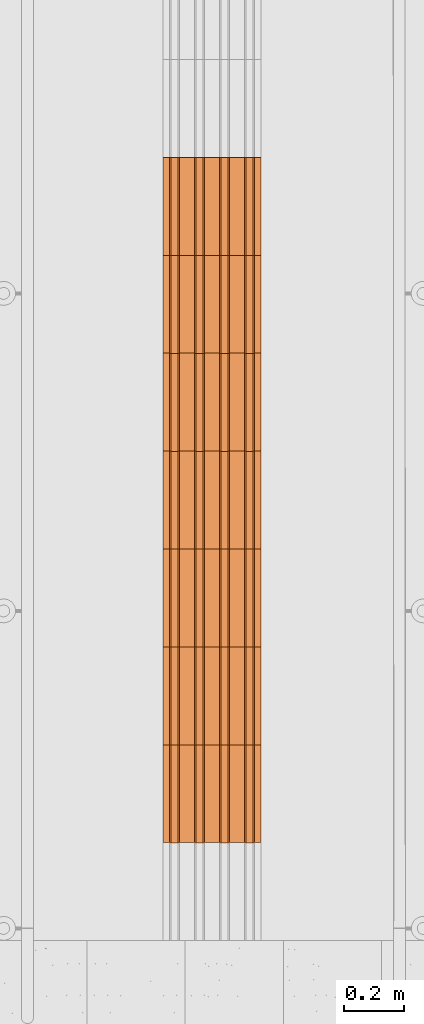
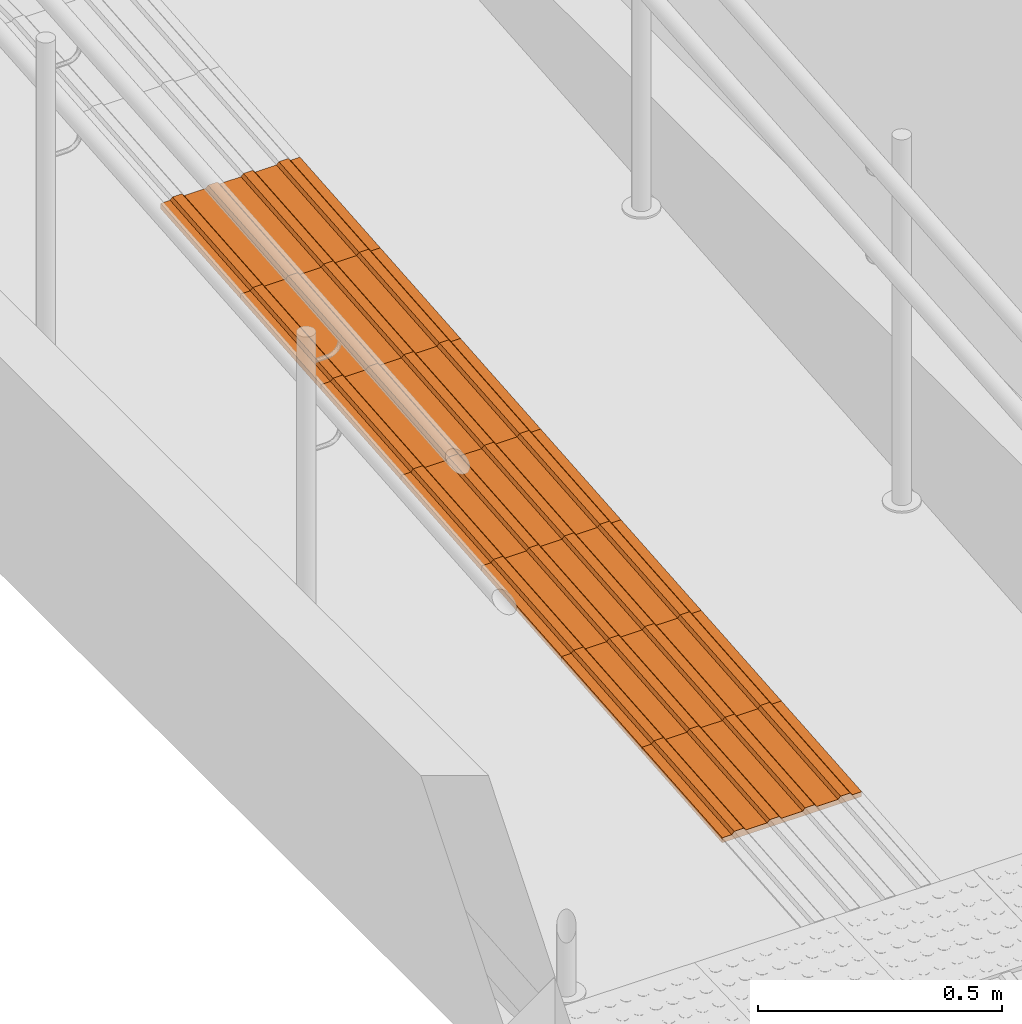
# One storey, part 175 of 237: 7 proxies.
"""IFC2X3 building model written with IfcOpenShell, lengths in millimetres."""

import ifcopenshell
import ifcopenshell.guid

model = None  # the IFC model being written
_history = None  # IfcOwnerHistory: only IFC2X3 demands one
_inside = {}  # id of a spatial element -> (the spatial element, [elements in it])
_under = {}  # id of a project, library or spatial element -> (it, [spatial elements below it])
_declared = {}  # id of a project -> (the project, [libraries it declares])
_typed = {}  # id of a type object -> (the type object, [elements of that type])
_made_of = {}  # id of a material, layer set ... -> (it, [elements and type objects made of it])


def new_model(schema):
    """Start an empty IFC model of exactly this schema.

    Asked for "IFC4X3", IfcOpenShell would pick the latest addendum, in which some entities
    have other attributes; the version numbers below select the first issue.
    IFC2X3 requires an IfcOwnerHistory on every rooted entity: one is made here for all.
    """
    global model, _history
    if schema == "IFC4X3":
        model = ifcopenshell.file(schema_version=(4, 3, 0, 0))
    else:
        model = ifcopenshell.file(schema=schema)
    _inside.clear()
    _under.clear()
    _declared.clear()
    _typed.clear()
    _made_of.clear()
    _history = None
    if model.schema == "IFC2X3":
        org = make("IfcOrganization", Name="unknown")
        user = make(
            "IfcPersonAndOrganization",
            ThePerson=make("IfcPerson", FamilyName="unknown"),
            TheOrganization=org,
        )
        app = make(
            "IfcApplication",
            ApplicationDeveloper=org,
            Version="unknown",
            ApplicationFullName="unknown",
            ApplicationIdentifier="unknown",
        )
        _history = make(
            "IfcOwnerHistory",
            OwningUser=user,
            OwningApplication=app,
            ChangeAction="ADDED",
            CreationDate=0,
        )
    return model


def make(cls, **values):
    """One entity of the class cls with the attributes given. An attribute that is None is left unset."""
    return model.create_entity(
        cls, **{name: value for name, value in values.items() if value is not None}
    )


def entity(cls, *values):
    """Any entity or typed value of the class cls, its attributes in the order of the schema. None: left unset."""
    e = model.create_entity(cls)
    for i, value in enumerate(values):
        if value is not None:
            e[i] = value
    return e


def rooted(cls, **values):
    """An entity with a GlobalId (a new one), such as an element, a storey or a relation."""
    return make(cls, GlobalId=ifcopenshell.guid.new(), OwnerHistory=_history, **values)


def si_unit(unit_type, name, prefix=None):
    """IfcSIUnit, for example si_unit("LENGTHUNIT", "METRE", prefix="MILLI")."""
    return make("IfcSIUnit", UnitType=unit_type, Prefix=prefix, Name=name)


def converted_unit(unit_type, name, factor, base, dimensions=None, offset=None):
    """IfcConversionBasedUnit, such as the inch: factor (a typed value) times the base unit."""
    return make(
        "IfcConversionBasedUnit"
        if offset is None
        else "IfcConversionBasedUnitWithOffset",
        ConversionOffset=offset,
        Dimensions=None
        if dimensions is None
        else entity("IfcDimensionalExponents", *dimensions),
        UnitType=unit_type,
        Name=name,
        ConversionFactor=make(
            "IfcMeasureWithUnit", ValueComponent=factor, UnitComponent=base
        ),
    )


def derived_unit(unit_type, elements):
    """IfcDerivedUnit: a product of units, each with its exponent."""
    return make(
        "IfcDerivedUnit",
        Elements=[
            make("IfcDerivedUnitElement", Unit=unit, Exponent=power)
            for unit, power in elements
        ],
        UnitType=unit_type,
    )


def money_unit(currency):
    """IfcMonetaryUnit."""
    return make("IfcMonetaryUnit", Currency=currency)


def assignment(units):
    """IfcUnitAssignment: the units of a project."""
    return None if units is None else make("IfcUnitAssignment", Units=units)


def point(xyz):
    """IfcCartesianPoint."""
    return None if xyz is None else make("IfcCartesianPoint", Coordinates=xyz)


def direction(xyz):
    """IfcDirection."""
    return None if xyz is None else make("IfcDirection", DirectionRatios=xyz)


def frame(location, z_axis=None, x_axis=None):
    """IfcAxis2Placement3D, a coordinate frame: its origin and axes. An axis left out is left unset."""
    return make(
        "IfcAxis2Placement3D",
        Location=point(location),
        Axis=direction(z_axis),
        RefDirection=direction(x_axis),
    )


def origin_with_axes():
    """The frame at (0, 0, 0) with the z axis (0, 0, 1) and the x axis (1, 0, 0) written out."""
    return frame((0.0, 0.0, 0.0), z_axis=(0.0, 0.0, 1.0), x_axis=(1.0, 0.0, 0.0))


def place(relative_to, where):
    """IfcLocalPlacement: puts the frame where relative to a parent placement (None: the world)."""
    return make(
        "IfcLocalPlacement", PlacementRelTo=relative_to, RelativePlacement=where
    )


def context(
    kind, dimensions, precision=None, world=None, true_north=None, identifier=None
):
    """IfcGeometricRepresentationContext, for example the 3D "Model" context."""
    return make(
        "IfcGeometricRepresentationContext",
        ContextIdentifier=identifier,
        ContextType=kind,
        CoordinateSpaceDimension=dimensions,
        Precision=precision,
        WorldCoordinateSystem=world,
        TrueNorth=true_north,
    )


def subcontext(parent, identifier, kind, view, scale=None):
    """IfcGeometricRepresentationSubContext, for example "Body" below "Model"."""
    return make(
        "IfcGeometricRepresentationSubContext",
        ContextIdentifier=identifier,
        ContextType=kind,
        ParentContext=parent,
        TargetScale=scale,
        TargetView=view,
    )


def project(units=None, contexts=None):
    """IfcProject with its units and contexts."""
    return rooted(
        "IfcProject",
        Name="project",
        RepresentationContexts=contexts,
        UnitsInContext=assignment(units),
    )


def spatial(cls, under=None, at=None, **own):
    """A site, building, storey or space (cls), placed at a placement, below another one or the project."""
    s = rooted(cls, ObjectPlacement=at, **own)
    if under is not None:
        _under.setdefault(under.id(), (under, []))[1].append(s)
    return s


def faces_of(points, faces, orient=None, outer=None):
    """IfcFace entities. A face is a list of loops; a loop is a list of indices into points, from 0.

    orient and outer hold one flag for each loop. By default every Orientation is true, the
    first loop of a face is its IfcFaceOuterBound and the others are IfcFaceBound.
    """
    made = []
    for i, loops in enumerate(faces):
        bounds = []
        for j, loop in enumerate(loops):
            is_outer = j == 0 if outer is None else outer[i][j]
            bounds.append(
                make(
                    "IfcFaceOuterBound" if is_outer else "IfcFaceBound",
                    Bound=make("IfcPolyLoop", Polygon=[points[k] for k in loop]),
                    Orientation=True if orient is None else orient[i][j],
                )
            )
        made.append(make("IfcFace", Bounds=bounds))
    return made


def open_shell(faces, orient=None, outer=None):
    """The faces of one IfcOpenShell. surface_model builds it on its shared points."""
    return ("IfcOpenShell", faces, orient, outer)


def surface_model(cls, points, shells):
    """IfcFaceBasedSurfaceModel or IfcShellBasedSurfaceModel (cls): surfaces that need not close."""
    shared = [point(p) for p in points]
    made = [make(c, CfsFaces=faces_of(shared, fs, o, b)) for c, fs, o, b in shells]
    if cls == "IfcFaceBasedSurfaceModel":
        return make(cls, FbsmFaces=made)
    return make(cls, SbsmBoundary=made)


def shape(context_of_items, identifier, shape_type, items):
    """IfcShapeRepresentation: the items that make up one representation, for example the "Body"."""
    return make(
        "IfcShapeRepresentation",
        ContextOfItems=context_of_items,
        RepresentationIdentifier=identifier,
        RepresentationType=shape_type,
        Items=items,
    )


def source(mapping_origin, context_of_items, identifier, shape_type, items):
    """IfcRepresentationMap: a shape defined once, which mapped items show again and again."""
    return make(
        "IfcRepresentationMap",
        MappingOrigin=mapping_origin,
        MappedRepresentation=shape(context_of_items, identifier, shape_type, items),
    )


def transform(
    local_origin,
    x_axis=None,
    y_axis=None,
    z_axis=None,
    scale=None,
    scale2=None,
    scale3=None,
    uniform=True,
):
    """IfcCartesianTransformationOperator3D, or its non-uniform kind. x_axis, y_axis, z_axis: its Axis1, 2, 3."""
    if uniform:
        return make(
            "IfcCartesianTransformationOperator3D",
            Axis1=direction(x_axis),
            Axis2=direction(y_axis),
            LocalOrigin=point(local_origin),
            Scale=scale,
            Axis3=direction(z_axis),
        )
    return make(
        "IfcCartesianTransformationOperator3DnonUniform",
        Axis1=direction(x_axis),
        Axis2=direction(y_axis),
        LocalOrigin=point(local_origin),
        Scale=scale,
        Axis3=direction(z_axis),
        Scale2=scale2,
        Scale3=scale3,
    )


def mapped(mapping_source, mapping_target):
    """IfcMappedItem: shows the shape of a source again, moved by a transform."""
    return make(
        "IfcMappedItem", MappingSource=mapping_source, MappingTarget=mapping_target
    )


def made_of(thing, what):
    """Note that an element or type object is made of a material, layer set ...; save() writes the relation."""
    if what is not None:
        _made_of.setdefault(what.id(), (what, []))[1].append(thing)
    return thing


def type_object(cls, material=None, **own):
    """A type object (cls), such as IfcWallType, which elements share."""
    return made_of(rooted(cls, **own), material)


def element(
    cls,
    number,
    at=None,
    inside=None,
    cuts=None,
    type_object=None,
    material=None,
    context=None,
    identifier="Body",
    shape_type=None,
    held_by="IfcProductDefinitionShape",
    body=None,
    shapes=None,
    **own,
):
    """One element of the class cls, such as IfcWall. Its Tag is "e" and its number.

    at: its placement. inside: the storey or other place that contains it. cuts: it is an
    opening in that element (IfcRelVoidsElement). A single representation is given by context,
    identifier, shape_type and body (its items); several are given by shapes. held_by: the class
    of the entity that holds the representations. save() writes the other relations.
    """
    e = rooted(cls, Tag="e%d" % number, ObjectPlacement=at, **own)
    if body is not None:
        shapes = [shape(context, identifier, shape_type, body)]
    if shapes is not None:
        e.Representation = make(held_by, Representations=shapes)
    if inside is not None:
        _inside.setdefault(inside.id(), (inside, []))[1].append(e)
    if cuts is not None:
        rooted(
            "IfcRelVoidsElement", RelatingBuildingElement=cuts, RelatedOpeningElement=e
        )
    if type_object is not None:
        _typed.setdefault(type_object.id(), (type_object, []))[1].append(e)
    return made_of(e, material)


def aggregate(whole, parts):
    """IfcRelAggregates: a whole, such as a stair, and the parts it consists of."""
    return rooted("IfcRelAggregates", RelatingObject=whole, RelatedObjects=parts)


def save(model, path):
    """Write the relations noted so far, then the file.

    IfcRelAggregates (storeys below a building ...), IfcRelContainedInSpatialStructure (elements
    in a storey), IfcRelDefinesByType, IfcRelAssociatesMaterial and IfcRelDeclares: one each for
    every whole, place, type object, material and project.
    """
    for whole, parts in _under.values():
        aggregate(whole, parts)
    for where, things in _inside.values():
        rooted(
            "IfcRelContainedInSpatialStructure",
            RelatedElements=things,
            RelatingStructure=where,
        )
    for kind, things in _typed.values():
        rooted("IfcRelDefinesByType", RelatedObjects=things, RelatingType=kind)
    for what, things in _made_of.values():
        rooted("IfcRelAssociatesMaterial", RelatedObjects=things, RelatingMaterial=what)
    for by, libraries in _declared.values():
        rooted("IfcRelDeclares", RelatingContext=by, RelatedDefinitions=libraries)
    model.write(path)


model = new_model("IFC2X3")

# Units and contexts
model_context = context("Model", 3, precision=0.01, world=origin_with_axes(), true_north=direction((0.0, 1.0)))
body_context = subcontext(model_context, "Body", "Model", "MODEL_VIEW")
ifc_project = project(units=[si_unit("LENGTHUNIT", "METRE", prefix="MILLI"), si_unit("AREAUNIT", "SQUARE_METRE"), si_unit("VOLUMEUNIT", "CUBIC_METRE"), converted_unit("PLANEANGLEUNIT", "DEGREE", entity("IfcPlaneAngleMeasure", 0.0174532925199), si_unit("PLANEANGLEUNIT", "RADIAN"), dimensions=[0, 0, 0, 0, 0, 0, 0]), money_unit("USD"), converted_unit("TIMEUNIT", "Year", entity("IfcTimeMeasure", 31556926.0), si_unit("TIMEUNIT", "SECOND"), dimensions=[0, 0, 1, 0, 0, 0, 0]), si_unit("MASSUNIT", "GRAM", prefix="KILO"), si_unit("THERMODYNAMICTEMPERATUREUNIT", "DEGREE_CELSIUS"), si_unit("LUMINOUSINTENSITYUNIT", "LUMEN"), si_unit("ENERGYUNIT", "JOULE", prefix="MEGA"), derived_unit("THERMALCONDUCTANCEUNIT", [(si_unit("POWERUNIT", "WATT"), 1), (si_unit("LENGTHUNIT", "METRE"), -1), (si_unit("THERMODYNAMICTEMPERATUREUNIT", "KELVIN"), -1)]), derived_unit("SPECIFICHEATCAPACITYUNIT", [(si_unit("ENERGYUNIT", "JOULE"), 1), (si_unit("MASSUNIT", "GRAM", prefix="KILO"), -1), (si_unit("THERMODYNAMICTEMPERATUREUNIT", "KELVIN"), -1)]), derived_unit("MASSDENSITYUNIT", [(si_unit("MASSUNIT", "GRAM", prefix="KILO"), 1), (si_unit("VOLUMEUNIT", "CUBIC_METRE"), -1)])], contexts=[model_context])

# Site, building, storey
site_placement = place(None, origin_with_axes())
site = spatial("IfcSite", under=ifc_project, at=site_placement, Name="Local", CompositionType="ELEMENT")
building_placement = place(site_placement, origin_with_axes())
building = spatial("IfcBuilding", under=site, at=building_placement, Name="Construção", CompositionType="ELEMENT")
storey_placement = place(building_placement, origin_with_axes())
storey = spatial("IfcBuildingStorey", under=building, at=storey_placement, Name="Pavimento Térreo", CompositionType="ELEMENT", Elevation=0.0)

# Proxies
building_element_proxy_type = type_object("IfcBuildingElementProxyType", Name="Piso Direcional 27", PredefinedType="NOTDEFINED")
shared_shape = source(origin_with_axes(), body_context, "Body", "SurfaceModel", [
    surface_model("IfcShellBasedSurfaceModel", [(-0.333594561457, -47.258225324, 4.01468455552), (328.533021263, -47.258225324, 31.3413930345), (327.980966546, -41.665004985, 37.9851630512), (-0.885649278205, -41.665004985, 10.6584545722)], [open_shell([[[0, 1, 2, 3]]])]),
    surface_model("IfcShellBasedSurfaceModel", [(329.637130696, -153.529411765, 18.0538530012), (329.637130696, 176.470588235, 18.0538530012), (328.533021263, 176.470588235, 31.3413930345), (328.533021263, 154.097706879, 31.3413930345), (327.980966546, 148.50448654, 37.9851630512), (327.980966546, 126.131605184, 37.9851630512), (328.533021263, 120.538384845, 31.3413930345), (328.533021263, 70.1994017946, 31.3413930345), (327.980966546, 64.6061814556, 37.9851630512), (327.980966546, 42.2333000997, 37.9851630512), (328.533021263, 36.6400797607, 31.3413930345), (328.533021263, -13.6989032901, 31.3413930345), (327.980966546, -19.2921236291, 37.9851630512), (327.980966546, -41.665004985, 37.9851630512), (328.533021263, -47.258225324, 31.3413930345), (328.533021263, -97.5972083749, 31.3413930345), (327.980966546, -103.190428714, 37.9851630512), (327.980966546, -125.56331007, 37.9851630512), (328.533021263, -131.156530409, 31.3413930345), (328.533021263, -153.529411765, 31.3413930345)], [open_shell([[[0, 1, 2, 3, 4, 5, 6, 7, 8, 9, 10, 11, 12, 13, 14, 15, 16, 17, 18, 19]]])]),
    surface_model("IfcShellBasedSurfaceModel", [(-0.885649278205, -19.2921236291, 10.6584545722), (327.980966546, -19.2921236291, 37.9851630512), (328.533021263, -13.6989032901, 31.3413930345), (-0.333594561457, -13.6989032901, 4.01468455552)], [open_shell([[[0, 1, 2, 3]]])]),
    surface_model("IfcShellBasedSurfaceModel", [(-0.885649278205, -103.190428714, 10.6584545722), (327.980966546, -103.190428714, 37.9851630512), (328.533021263, -97.5972083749, 31.3413930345), (-0.333594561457, -97.5972083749, 4.01468455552)], [open_shell([[[0, 1, 2, 3]]])]),
    surface_model("IfcShellBasedSurfaceModel", [(-0.885649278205, 64.6061814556, 10.6584545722), (327.980966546, 64.6061814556, 37.9851630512), (328.533021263, 70.1994017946, 31.3413930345), (-0.333594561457, 70.1994017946, 4.01468455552)], [open_shell([[[0, 1, 2, 3]]])]),
    surface_model("IfcShellBasedSurfaceModel", [(-0.333594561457, 36.6400797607, 4.01468455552), (328.533021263, 36.6400797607, 31.3413930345), (327.980966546, 42.2333000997, 37.9851630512), (-0.885649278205, 42.2333000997, 10.6584545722)], [open_shell([[[0, 1, 2, 3]]])]),
    surface_model("IfcShellBasedSurfaceModel", [(-0.333594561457, -131.156530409, 4.01468455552), (328.533021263, -131.156530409, 31.3413930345), (327.980966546, -125.56331007, 37.9851630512), (-0.885649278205, -125.56331007, 10.6584545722)], [open_shell([[[0, 1, 2, 3]]])]),
    surface_model("IfcShellBasedSurfaceModel", [(-0.333594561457, 176.470588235, 4.01468455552), (-0.333594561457, 154.097706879, 4.01468455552), (328.533021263, 154.097706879, 31.3413930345), (328.533021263, 176.470588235, 31.3413930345)], [open_shell([[[0, 1, 2, 3]]])]),
    surface_model("IfcShellBasedSurfaceModel", [(-0.333594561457, 120.538384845, 4.01468455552), (328.533021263, 120.538384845, 31.3413930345), (327.980966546, 126.131605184, 37.9851630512), (-0.885649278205, 126.131605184, 10.6584545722)], [open_shell([[[0, 1, 2, 3]]])]),
    surface_model("IfcShellBasedSurfaceModel", [(-0.885649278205, 148.50448654, 10.6584545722), (327.980966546, 148.50448654, 37.9851630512), (328.533021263, 154.097706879, 31.3413930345), (-0.333594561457, 154.097706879, 4.01468455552)], [open_shell([[[0, 1, 2, 3]]])]),
    surface_model("IfcShellBasedSurfaceModel", [(-0.333594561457, 36.6400797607, 4.01468455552), (-0.333594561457, -13.6989032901, 4.01468455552), (328.533021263, -13.6989032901, 31.3413930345), (328.533021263, 36.6400797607, 31.3413930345)], [open_shell([[[0, 1, 2, 3]]])]),
    surface_model("IfcShellBasedSurfaceModel", [(-0.333594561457, 120.538384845, 4.01468455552), (-0.333594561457, 70.1994017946, 4.01468455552), (328.533021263, 70.1994017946, 31.3413930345), (328.533021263, 120.538384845, 31.3413930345)], [open_shell([[[0, 1, 2, 3]]])]),
    surface_model("IfcShellBasedSurfaceModel", [(-0.885649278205, 148.50448654, 10.6584545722), (-0.885649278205, 126.131605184, 10.6584545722), (327.980966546, 126.131605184, 37.9851630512), (327.980966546, 148.50448654, 37.9851630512)], [open_shell([[[0, 1, 2, 3]]])]),
    surface_model("IfcShellBasedSurfaceModel", [(-0.333594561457, 120.538384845, 4.01468455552), (-0.885649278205, 126.131605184, 10.6584545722), (-0.885649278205, 148.50448654, 10.6584545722), (-0.333594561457, 154.097706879, 4.01468455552), (-0.333594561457, 176.470588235, 4.01468455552), (0.770514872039, 176.470588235, -9.27285547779), (0.770514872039, -153.529411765, -9.27285547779), (-0.333594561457, -153.529411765, 4.01468455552), (-0.333594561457, -131.156530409, 4.01468455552), (-0.885649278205, -125.56331007, 10.6584545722), (-0.885649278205, -103.190428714, 10.6584545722), (-0.333594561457, -97.5972083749, 4.01468455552), (-0.333594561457, -47.258225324, 4.01468455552), (-0.885649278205, -41.665004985, 10.6584545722), (-0.885649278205, -19.2921236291, 10.6584545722), (-0.333594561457, -13.6989032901, 4.01468455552), (-0.333594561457, 36.6400797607, 4.01468455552), (-0.885649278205, 42.2333000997, 10.6584545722), (-0.885649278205, 64.6061814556, 10.6584545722), (-0.333594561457, 70.1994017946, 4.01468455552)], [open_shell([[[0, 1, 2, 3, 4, 5, 6, 7, 8, 9, 10, 11, 12, 13, 14, 15, 16, 17, 18, 19]]])]),
    surface_model("IfcShellBasedSurfaceModel", [(327.980966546, -41.665004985, 37.9851630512), (327.980966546, -19.2921236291, 37.9851630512), (-0.885649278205, -19.2921236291, 10.6584545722), (-0.885649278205, -41.665004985, 10.6584545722)], [open_shell([[[0, 1, 2, 3]]])]),
    surface_model("IfcShellBasedSurfaceModel", [(-0.333594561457, -47.258225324, 4.01468455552), (-0.333594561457, -97.5972083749, 4.01468455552), (328.533021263, -97.5972083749, 31.3413930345), (328.533021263, -47.258225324, 31.3413930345)], [open_shell([[[0, 1, 2, 3]]])]),
    surface_model("IfcShellBasedSurfaceModel", [(327.980966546, 42.2333000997, 37.9851630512), (327.980966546, 64.6061814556, 37.9851630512), (-0.885649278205, 64.6061814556, 10.6584545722), (-0.885649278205, 42.2333000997, 10.6584545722)], [open_shell([[[0, 1, 2, 3]]])]),
    surface_model("IfcShellBasedSurfaceModel", [(327.980966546, -125.56331007, 37.9851630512), (327.980966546, -103.190428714, 37.9851630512), (-0.885649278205, -103.190428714, 10.6584545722), (-0.885649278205, -125.56331007, 10.6584545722)], [open_shell([[[0, 1, 2, 3]]])]),
    surface_model("IfcShellBasedSurfaceModel", [(329.637130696, 176.470588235, 18.0538530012), (0.770514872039, 176.470588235, -9.27285547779), (-0.333594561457, 176.470588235, 4.01468455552), (328.533021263, 176.470588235, 31.3413930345)], [open_shell([[[0, 1, 2, 3]]])]),
    surface_model("IfcShellBasedSurfaceModel", [(329.637130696, -153.529411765, 18.0538530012), (0.770514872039, -153.529411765, -9.27285547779), (0.770514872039, 176.470588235, -9.27285547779), (329.637130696, 176.470588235, 18.0538530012)], [open_shell([[[0, 1, 2, 3]]])]),
    surface_model("IfcShellBasedSurfaceModel", [(328.533021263, -153.529411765, 31.3413930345), (328.533021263, -131.156530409, 31.3413930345), (-0.333594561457, -131.156530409, 4.01468455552), (-0.333594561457, -153.529411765, 4.01468455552)], [open_shell([[[0, 1, 2, 3]]])]),
    surface_model("IfcShellBasedSurfaceModel", [(0.770514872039, -153.529411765, -9.27285547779), (329.637130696, -153.529411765, 18.0538530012), (328.533021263, -153.529411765, 31.3413930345), (-0.333594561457, -153.529411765, 4.01468455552)], [open_shell([[[0, 1, 2, 3]]])]),
])
for number, where, z_axis, x_axis, name in (
    (1, (84148.2330476, 15093.2882469, -5077.17246606), (0.0, 0.0, 1.0), (0.0, 1.0, 0.0), "Objeto-0055"),
    (2, (84148.2330476, 14435.5550152, -5131.82588302), (0.0, 0.0, 1.0), (0.0, 1.0, 0.0), "Objeto-0055"),
    (3, (84148.2330476, 13120.0885519, -5241.13271694), (0.0, 0.0, 1.0), (0.0, 1.0, 0.0), "Objeto-0055"),
    (4, (84148.2330476, 13777.8217836, -5186.47929998), (0.0, 0.0, 1.0), (0.0, 1.0, 0.0), "Objeto-0055"),
    (5, (84148.2330476, 14106.6883994, -5159.1525915), (0.0, 0.0, 1.0), (0.0, 1.0, 0.0), "Objeto-0055"),
    (6, (84148.2330476, 13448.9551678, -5213.80600846), (0.0, 0.0, 1.0), (0.0, 1.0, 0.0), "Objeto-0055"),
    (7, (84148.2330476, 14764.4216311, -5104.49917454), (0.0, 0.0, 1.0), (0.0, 1.0, 0.0), "Objeto-0055"),
):
    element("IfcBuildingElementProxy", number, at=place(storey_placement, frame(where, z_axis=z_axis, x_axis=x_axis)), inside=storey, type_object=building_element_proxy_type, Name=name, context=body_context, shape_type="MappedRepresentation", body=[
        mapped(shared_shape, transform((0.0, 0.0, 0.0))),
    ])

save(model, "model.ifc")
